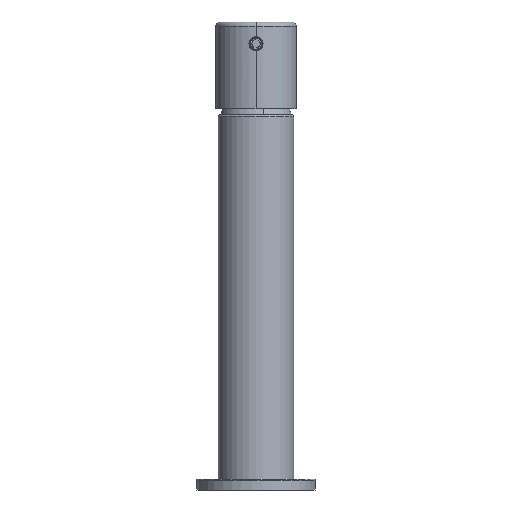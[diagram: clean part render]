
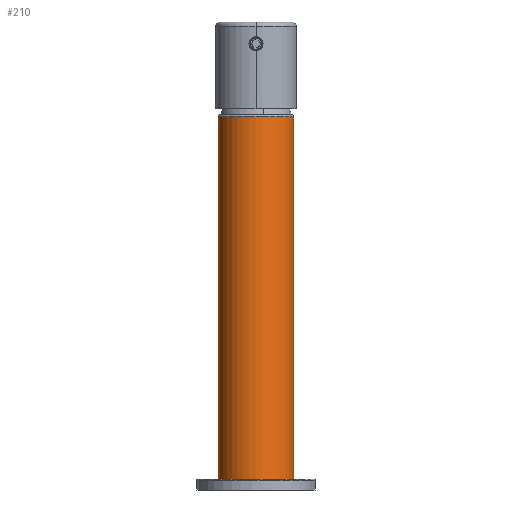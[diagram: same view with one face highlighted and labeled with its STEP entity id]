
A CAD part, front view. The second image highlights one B-rep face of the part: STEP entity #210.
In plain terms, the highlighted cylindrical face has radius 17.5 mm (diameter 35 mm), a partial arc.
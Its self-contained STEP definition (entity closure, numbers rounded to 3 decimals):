
#182 = LINE ( 'NONE', #2055, #1656 ) ;
#210 = ADVANCED_FACE ( 'NONE', ( #2194 ), #8668, .T. ) ;
#228 = CARTESIAN_POINT ( 'NONE',  ( 3.863, -61.103, 245.103 ) ) ;
#234 = LINE ( 'NONE', #6196, #4637 ) ;
#352 = DIRECTION ( 'NONE',  ( 0., 0., -1. ) ) ;
#838 = DIRECTION ( 'NONE',  ( 1., 0., 0. ) ) ;
#841 = EDGE_CURVE ( 'NONE', #7662, #1316, #5586, .T. ) ;
#1301 = DIRECTION ( 'NONE',  ( -1., 0., 0. ) ) ;
#1316 = VERTEX_POINT ( 'NONE', #4292 ) ;
#1398 = VECTOR ( 'NONE', #8188, 1000. ) ;
#1449 = ORIENTED_EDGE ( 'NONE', *, *, #11604, .F. ) ;
#1598 = ORIENTED_EDGE ( 'NONE', *, *, #10548, .F. ) ;
#1629 = DIRECTION ( 'NONE',  ( 0., 0., -1. ) ) ;
#1648 = CIRCLE ( 'NONE', #3483, 17.5 ) ;
#1656 = VECTOR ( 'NONE', #3194, 1000. ) ;
#1730 = EDGE_CURVE ( 'NONE', #12194, #5900, #9066, .T. ) ;
#1911 = VERTEX_POINT ( 'NONE', #10643 ) ;
#1986 = CARTESIAN_POINT ( 'NONE',  ( 21.363, -61.103, 99.103 ) ) ;
#2055 = CARTESIAN_POINT ( 'NONE',  ( 3.863, -61.103, 267.103 ) ) ;
#2158 = AXIS2_PLACEMENT_3D ( 'NONE', #2561, #6404, #838 ) ;
#2194 = FACE_OUTER_BOUND ( 'NONE', #5391, .T. ) ;
#2522 = CARTESIAN_POINT ( 'NONE',  ( 38.863, -61.103, 267.103 ) ) ;
#2561 = CARTESIAN_POINT ( 'NONE',  ( 21.363, -61.103, 266.103 ) ) ;
#3194 = DIRECTION ( 'NONE',  ( 0., 0., 1. ) ) ;
#3483 = AXIS2_PLACEMENT_3D ( 'NONE', #1986, #4008, #5007 ) ;
#3601 = AXIS2_PLACEMENT_3D ( 'NONE', #10998, #10047, #1301 ) ;
#4008 = DIRECTION ( 'NONE',  ( 0., 0., 1. ) ) ;
#4292 = CARTESIAN_POINT ( 'NONE',  ( 3.863, -61.103, 266.103 ) ) ;
#4637 = VECTOR ( 'NONE', #352, 1000. ) ;
#5007 = DIRECTION ( 'NONE',  ( 1., 0., 0. ) ) ;
#5314 = CARTESIAN_POINT ( 'NONE',  ( 3.863, -61.103, 267.103 ) ) ;
#5391 = EDGE_LOOP ( 'NONE', ( #5582, #1598, #9214, #1449, #9134, #8039 ) ) ;
#5582 = ORIENTED_EDGE ( 'NONE', *, *, #8366, .F. ) ;
#5586 = CIRCLE ( 'NONE', #2158, 17.5 ) ;
#5900 = VERTEX_POINT ( 'NONE', #10579 ) ;
#6196 = CARTESIAN_POINT ( 'NONE',  ( 38.863, -61.103, 267.103 ) ) ;
#6404 = DIRECTION ( 'NONE',  ( 0., 0., -1. ) ) ;
#7662 = VERTEX_POINT ( 'NONE', #11548 ) ;
#8039 = ORIENTED_EDGE ( 'NONE', *, *, #11611, .T. ) ;
#8188 = DIRECTION ( 'NONE',  ( 0., 0., -1. ) ) ;
#8366 = EDGE_CURVE ( 'NONE', #1911, #12554, #234, .T. ) ;
#8668 = CYLINDRICAL_SURFACE ( 'NONE', #3601, 17.5 ) ;
#9066 = LINE ( 'NONE', #5314, #1398 ) ;
#9134 = ORIENTED_EDGE ( 'NONE', *, *, #1730, .T. ) ;
#9214 = ORIENTED_EDGE ( 'NONE', *, *, #841, .T. ) ;
#10047 = DIRECTION ( 'NONE',  ( 0., 0., -1. ) ) ;
#10548 = EDGE_CURVE ( 'NONE', #7662, #1911, #11131, .T. ) ;
#10579 = CARTESIAN_POINT ( 'NONE',  ( 3.863, -61.103, 99.103 ) ) ;
#10643 = CARTESIAN_POINT ( 'NONE',  ( 38.863, -61.103, 245.103 ) ) ;
#10998 = CARTESIAN_POINT ( 'NONE',  ( 21.363, -61.103, 267.103 ) ) ;
#11131 = LINE ( 'NONE', #2522, #12551 ) ;
#11548 = CARTESIAN_POINT ( 'NONE',  ( 38.863, -61.103, 266.103 ) ) ;
#11604 = EDGE_CURVE ( 'NONE', #12194, #1316, #182, .T. ) ;
#11611 = EDGE_CURVE ( 'NONE', #5900, #12554, #1648, .T. ) ;
#12194 = VERTEX_POINT ( 'NONE', #228 ) ;
#12481 = CARTESIAN_POINT ( 'NONE',  ( 38.863, -61.103, 99.103 ) ) ;
#12551 = VECTOR ( 'NONE', #1629, 1000. ) ;
#12554 = VERTEX_POINT ( 'NONE', #12481 ) ;
